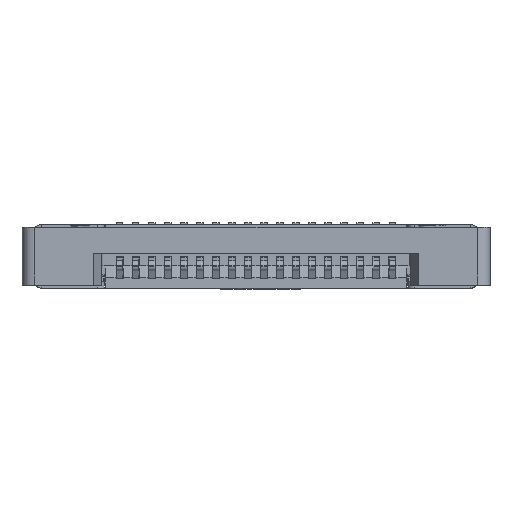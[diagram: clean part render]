
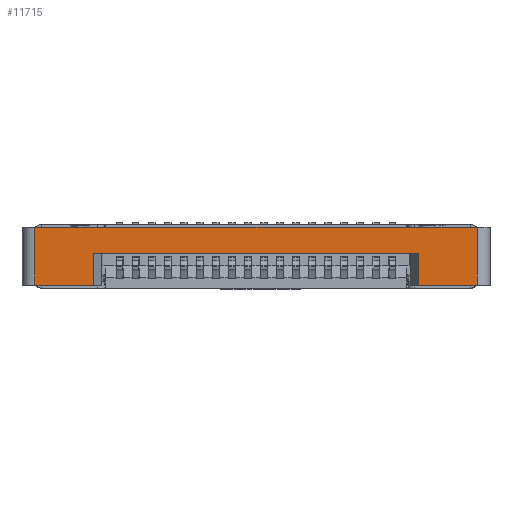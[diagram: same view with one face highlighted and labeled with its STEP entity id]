
A CAD part, top view. The second image highlights one B-rep face of the part: STEP entity #11715.
In plain terms, the highlighted planar face has unit normal (0, 0, 1).
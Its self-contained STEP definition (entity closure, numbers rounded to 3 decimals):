
#406 = EDGE_CURVE ( 'NONE', #59495, #1403, #46606, .T. ) ;
#1219 = EDGE_CURVE ( 'NONE', #75487, #66213, #66289, .T. ) ;
#1403 = VERTEX_POINT ( 'NONE', #6562 ) ;
#2217 = LINE ( 'NONE', #45210, #20339 ) ;
#3809 = VERTEX_POINT ( 'NONE', #55443 ) ;
#4432 = CARTESIAN_POINT ( 'NONE',  ( -0.55, 0.9, 0.19 ) ) ;
#5313 = ORIENTED_EDGE ( 'NONE', *, *, #1219, .T. ) ;
#6562 = CARTESIAN_POINT ( 'NONE',  ( 13.25, -0.9, 0.19 ) ) ;
#8854 = CARTESIAN_POINT ( 'NONE',  ( 11.41, -0.9, 0.19 ) ) ;
#9655 = CARTESIAN_POINT ( 'NONE',  ( 11.41, -0.9, 0.19 ) ) ;
#9697 = EDGE_CURVE ( 'NONE', #59495, #66213, #53491, .T. ) ;
#10526 = ORIENTED_EDGE ( 'NONE', *, *, #70100, .T. ) ;
#11375 = CARTESIAN_POINT ( 'NONE',  ( 1.29, 0.1, 0.19 ) ) ;
#11715 = ADVANCED_FACE ( 'NONE', ( #61520 ), #68807, .T. ) ;
#11796 = LINE ( 'NONE', #73525, #42780 ) ;
#13976 = EDGE_CURVE ( 'NONE', #75487, #28726, #52574, .T. ) ;
#14353 = DIRECTION ( 'NONE',  ( 1., 0., 0. ) ) ;
#15240 = DIRECTION ( 'NONE',  ( 0., -1., 0. ) ) ;
#15844 = ORIENTED_EDGE ( 'NONE', *, *, #9697, .F. ) ;
#16036 = CARTESIAN_POINT ( 'NONE',  ( 1.29, 0.1, 0.19 ) ) ;
#17884 = DIRECTION ( 'NONE',  ( 0., -1., 0. ) ) ;
#18478 = DIRECTION ( 'NONE',  ( 0., 0., 1. ) ) ;
#19657 = VERTEX_POINT ( 'NONE', #4432 ) ;
#19725 = LINE ( 'NONE', #63179, #51405 ) ;
#20138 = DIRECTION ( 'NONE',  ( 1., 0., 0. ) ) ;
#20339 = VECTOR ( 'NONE', #14353, 1000. ) ;
#21369 = CARTESIAN_POINT ( 'NONE',  ( 13.25, -0.9, 0.19 ) ) ;
#21396 = CARTESIAN_POINT ( 'NONE',  ( 11.41, 0.1, 0.19 ) ) ;
#25766 = EDGE_CURVE ( 'NONE', #19657, #3809, #19725, .T. ) ;
#26285 = EDGE_CURVE ( 'NONE', #40446, #28726, #2217, .T. ) ;
#26504 = VECTOR ( 'NONE', #73174, 1000. ) ;
#28726 = VERTEX_POINT ( 'NONE', #62887 ) ;
#30747 = VECTOR ( 'NONE', #40434, 1000. ) ;
#35234 = DIRECTION ( 'NONE',  ( 0., 1., 0. ) ) ;
#35961 = EDGE_LOOP ( 'NONE', ( #58286, #62889, #5313, #15844, #75953, #62104, #55775, #10526 ) ) ;
#38825 = VECTOR ( 'NONE', #35234, 1000. ) ;
#39286 = DIRECTION ( 'NONE',  ( 1., 0., 0. ) ) ;
#40434 = DIRECTION ( 'NONE',  ( 0., 1., 0. ) ) ;
#40446 = VERTEX_POINT ( 'NONE', #55108 ) ;
#42780 = VECTOR ( 'NONE', #17884, 1000. ) ;
#42852 = CARTESIAN_POINT ( 'NONE',  ( 6.35, 0., 0.19 ) ) ;
#45210 = CARTESIAN_POINT ( 'NONE',  ( -0.55, -0.9, 0.19 ) ) ;
#46606 = LINE ( 'NONE', #9655, #60032 ) ;
#46939 = LINE ( 'NONE', #21369, #30747 ) ;
#49071 = VECTOR ( 'NONE', #15240, 1000. ) ;
#49726 = DIRECTION ( 'NONE',  ( 1., 0., 0. ) ) ;
#51405 = VECTOR ( 'NONE', #20138, 1000. ) ;
#52574 = LINE ( 'NONE', #16036, #49071 ) ;
#53491 = LINE ( 'NONE', #8854, #38825 ) ;
#55108 = CARTESIAN_POINT ( 'NONE',  ( -0.55, -0.9, 0.19 ) ) ;
#55443 = CARTESIAN_POINT ( 'NONE',  ( 13.25, 0.9, 0.19 ) ) ;
#55775 = ORIENTED_EDGE ( 'NONE', *, *, #25766, .F. ) ;
#56591 = AXIS2_PLACEMENT_3D ( 'NONE', #42852, #18478, #49726 ) ;
#57486 = EDGE_CURVE ( 'NONE', #1403, #3809, #46939, .T. ) ;
#58286 = ORIENTED_EDGE ( 'NONE', *, *, #26285, .T. ) ;
#59402 = CARTESIAN_POINT ( 'NONE',  ( 1.29, 0.1, 0.19 ) ) ;
#59495 = VERTEX_POINT ( 'NONE', #67455 ) ;
#60032 = VECTOR ( 'NONE', #39286, 1000. ) ;
#61520 = FACE_OUTER_BOUND ( 'NONE', #35961, .T. ) ;
#62104 = ORIENTED_EDGE ( 'NONE', *, *, #57486, .T. ) ;
#62887 = CARTESIAN_POINT ( 'NONE',  ( 1.29, -0.9, 0.19 ) ) ;
#62889 = ORIENTED_EDGE ( 'NONE', *, *, #13976, .F. ) ;
#63179 = CARTESIAN_POINT ( 'NONE',  ( -0.55, 0.9, 0.19 ) ) ;
#66213 = VERTEX_POINT ( 'NONE', #21396 ) ;
#66289 = LINE ( 'NONE', #59402, #26504 ) ;
#67455 = CARTESIAN_POINT ( 'NONE',  ( 11.41, -0.9, 0.19 ) ) ;
#68807 = PLANE ( 'NONE',  #56591 ) ;
#70100 = EDGE_CURVE ( 'NONE', #19657, #40446, #11796, .T. ) ;
#73174 = DIRECTION ( 'NONE',  ( 1., 0., 0. ) ) ;
#73525 = CARTESIAN_POINT ( 'NONE',  ( -0.55, 0.9, 0.19 ) ) ;
#75487 = VERTEX_POINT ( 'NONE', #11375 ) ;
#75953 = ORIENTED_EDGE ( 'NONE', *, *, #406, .T. ) ;
